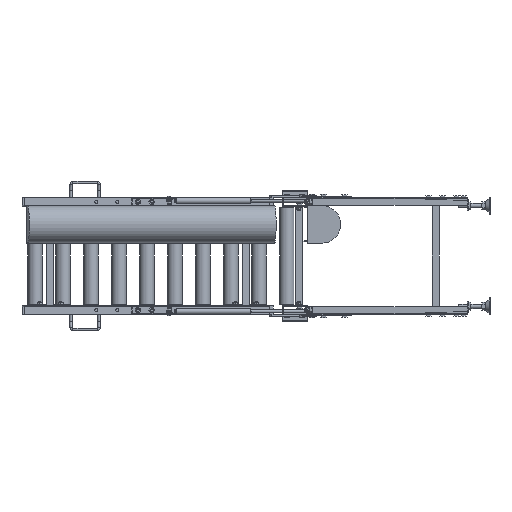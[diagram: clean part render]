
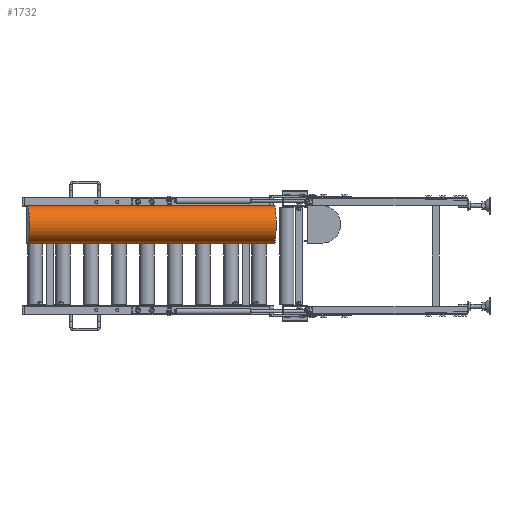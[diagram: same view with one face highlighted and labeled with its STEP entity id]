
A CAD part, left-side view. The second image highlights one B-rep face of the part: STEP entity #1732.
In plain terms, the highlighted cylindrical face has radius 66.89 mm (diameter 133.78 mm), a partial arc.
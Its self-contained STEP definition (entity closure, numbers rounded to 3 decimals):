
#1732=ADVANCED_FACE('',(#12787),#12786,.T.);
#12786=CYLINDRICAL_SURFACE('',#34323,66.89);
#12787=FACE_OUTER_BOUND('',#34324,.T.);
#34320=CARTESIAN_POINT('',(-63.444,-158.438,112.61));
#34321=DIRECTION('',(0.087,-0.996,0.));
#34322=DIRECTION('',(0.,0.,-1.));
#34323=AXIS2_PLACEMENT_3D('',#34320,#34321,#34322);
#34324=EDGE_LOOP('',(#48148,#48149,#48150,#48151));
#48148=ORIENTED_EDGE('',*,*,#58743,.F.);
#48149=ORIENTED_EDGE('',*,*,#58744,.T.);
#48150=ORIENTED_EDGE('',*,*,#58724,.T.);
#48151=ORIENTED_EDGE('',*,*,#58742,.F.);
#58724=EDGE_CURVE('',#79322,#79336,#79343,.T.);
#58742=EDGE_CURVE('',#79458,#79336,#79465,.T.);
#58743=EDGE_CURVE('',#79471,#79458,#79472,.T.);
#58744=EDGE_CURVE('',#79471,#79322,#79478,.T.);
#79322=VERTEX_POINT('',#115780);
#79336=VERTEX_POINT('',#115788);
#79343=CIRCLE('',#115795,66.89);
#79458=VERTEX_POINT('',#115857);
#79465=LINE('',#115861,#115862);
#79471=VERTEX_POINT('',#115864);
#79472=CIRCLE('',#115868,66.89);
#79478=LINE('',#115869,#115870);
#115780=CARTESIAN_POINT('',(-155.735,897.187,179.5));
#115788=CARTESIAN_POINT('',(-155.735,897.187,45.72));
#115792=CARTESIAN_POINT('',(-155.735,897.187,112.61));
#115793=DIRECTION('',(0.087,-0.996,0.));
#115794=DIRECTION('',(0.,0.,-1.));
#115795=AXIS2_PLACEMENT_3D('',#115792,#115793,#115794);
#115857=CARTESIAN_POINT('',(-78.917,18.539,45.72));
#115861=CARTESIAN_POINT('',(-78.917,18.539,45.72));
#115862=VECTOR('',#115863,882.);
#115863=DIRECTION('',(-0.087,0.996,0.));
#115864=CARTESIAN_POINT('',(-78.917,18.539,179.5));
#115865=CARTESIAN_POINT('',(-78.917,18.539,112.61));
#115866=DIRECTION('',(0.087,-0.996,0.));
#115867=DIRECTION('',(0.,0.,1.));
#115868=AXIS2_PLACEMENT_3D('',#115865,#115866,#115867);
#115869=CARTESIAN_POINT('',(-78.917,18.539,179.5));
#115870=VECTOR('',#115871,882.);
#115871=DIRECTION('',(-0.087,0.996,0.));
